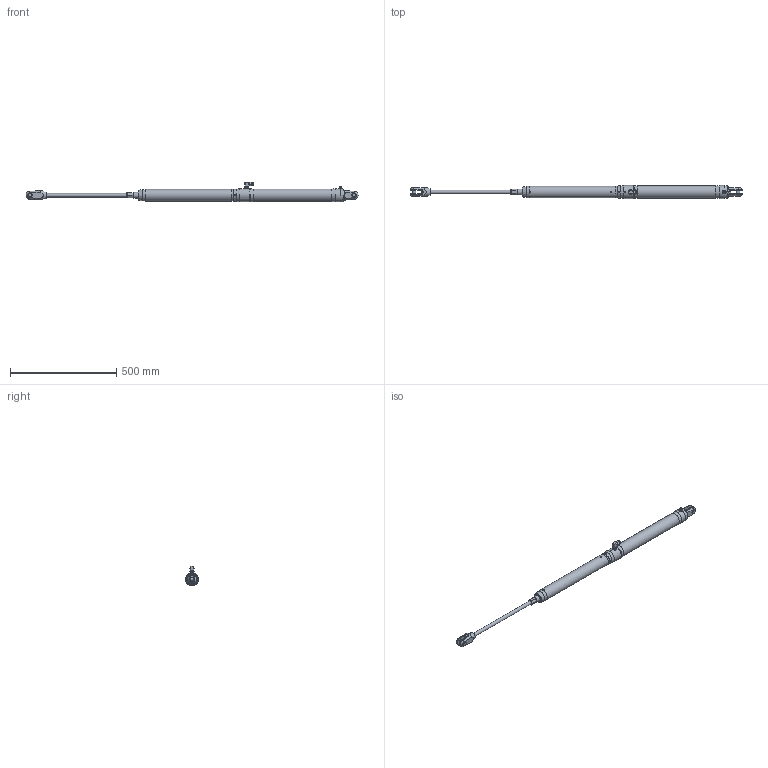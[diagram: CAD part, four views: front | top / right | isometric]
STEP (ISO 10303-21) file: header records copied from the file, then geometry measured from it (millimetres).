
FILE_DESCRIPTION(/* description */ (''),/* implementation_level */ '2;1');
FILE_NAME(/* name */ 'Q:\AA BRAND HYDRAULICS\HYDRAULICS FAMILY DIRECTORY\HYDRAULICS\CYLINDERS\MECHANICAL LOCK RAMS\ALUMINIUM - STAINLESS SINGLE ACTING (-0012 To -0150)\MSA-0017-S0375-NP-71\MSA-0017-S0375-NP-71 (Open).stp',/* time_stamp */ '2018-04-25T15:30:32+01:00',/* author */ ('Lorena'),/* organization */ (''),/* preprocessor_version */ 'ST-DEVELOPER v17',/* originating_system */ 'Autodesk Inventor 2018',/* authorisation */ '');
FILE_SCHEMA (('AUTOMOTIVE_DESIGN { 1 0 10303 214 3 1 1 }'));
Length unit declared in the file: millimetre
Products named in the file (1): MSA-0017-S0375-NP-71 (Open)
Bounding box: 1564.15 x 61.4 x 92.2 mm (x, y, z)
Volume: 2772487.4 mm3; surface area: 241107.8 mm2
Topology: 2 solids, 4 shells, 492 faces, 1288 edges, 839 vertices
Faces by surface type: plane 279, cone 121, cylinder 77, torus 6, bspline 5, sphere 4
Full cylindrical faces by diameter (mm): 4 x5, 4.4 x1, 5 x5, 5.1 x1, 7 x1, 9 x1, 10 x2, 11.11 x1, 11.157 x1, 11.5 x1, 11.8 x1, 12 x3, 12.157 x1, 13 x1, 13.157 x2, 14.5 x2, 15.88 x2, 17.5 x1, 18.3 x3, 19.85 x2, 27 x2, 28 x2, 31 x1, 55 x1, 58.4 x1, 61.4 x4
Entity records: 16832 total; most frequent: CARTESIAN_POINT 4343, ORIENTED_EDGE 2556, DIRECTION 2491, EDGE_CURVE 1278, AXIS2_PLACEMENT_3D 958, VERTEX_POINT 839, LINE 575, VECTOR 575
